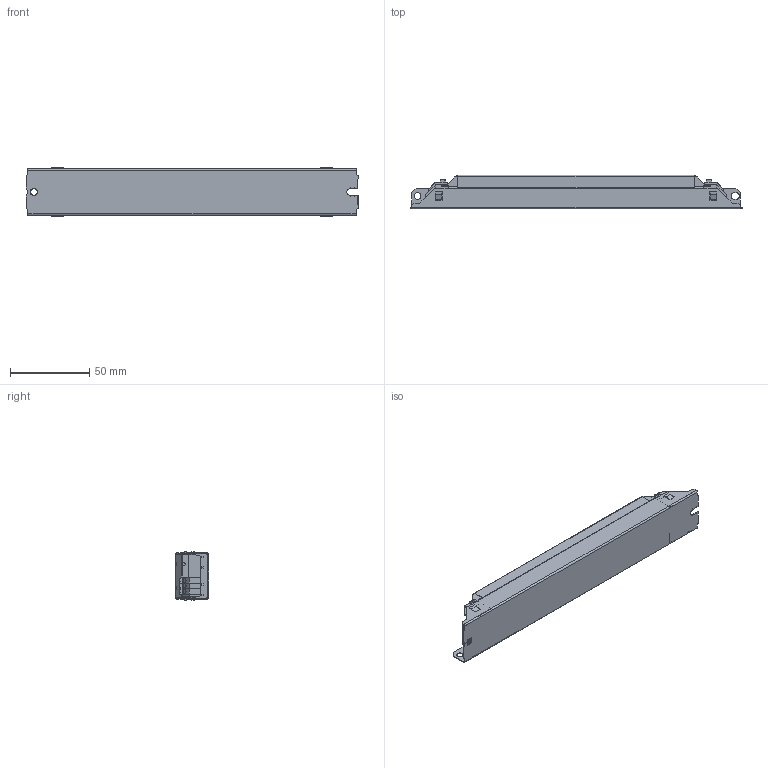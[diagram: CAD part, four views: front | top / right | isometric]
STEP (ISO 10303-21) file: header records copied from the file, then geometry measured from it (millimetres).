
FILE_DESCRIPTION (( 'STEP AP214' ), '1' );
FILE_NAME ('4168988swm000.step', '2019-11-25T14:57:30', ( 'OSRAM' ), ( 'OSRAM' ), 'SwSTEP 2.0', 'SolidWorks 2017', '' );
FILE_SCHEMA (( 'AUTOMOTIVE_DESIGN' ));
Length unit declared in the file: millimetre
Products named in the file (1): 4168988swm000
Bounding box: 209 x 21 x 31.39 mm (x, y, z)
Volume: 104790.1 mm3; surface area: 26607.7 mm2
Topology: 1 solids, 1 shells, 745 faces, 2047 edges, 1290 vertices
Faces by surface type: plane 574, cylinder 136, bspline 16, cone 15, torus 4
Entity records: 31630 total; most frequent: CARTESIAN_POINT 4843, ORIENTED_EDGE 4094, DIRECTION 3543, EDGE_CURVE 2047, VECTOR 1617, LINE 1617, VERTEX_POINT 1290, AXIS2_PLACEMENT_3D 963
